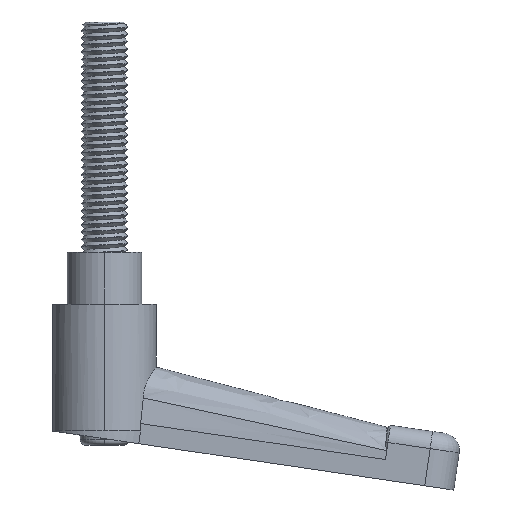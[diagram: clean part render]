
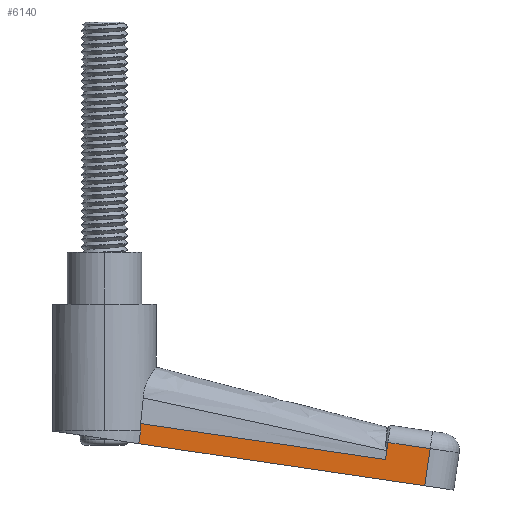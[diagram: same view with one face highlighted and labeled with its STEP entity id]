
A CAD part, left-side view. The second image highlights one B-rep face of the part: STEP entity #6140.
In plain terms, the highlighted planar face has unit normal (-1, -0.027, -0.004).
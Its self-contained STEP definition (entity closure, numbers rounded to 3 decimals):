
#24 = EDGE_LOOP ( 'NONE', ( #8490, #4016, #4014, #2385, #5252, #6838, #4878, #4247, #394 ) ) ;
#55 = VECTOR ( 'NONE', #6484, 1000. ) ;
#70 = VERTEX_POINT ( 'NONE', #7543 ) ;
#71 = DIRECTION ( 'NONE',  ( 1., 0.027, 0.004 ) ) ;
#280 = CARTESIAN_POINT ( 'NONE',  ( -5.294, -48.657, -35.944 ) ) ;
#283 = B_SPLINE_CURVE_WITH_KNOTS ( 'NONE', 3,
 ( #8276, #3263, #3327, #8343 ),
 .UNSPECIFIED., .F., .F.,
 ( 4, 4 ),
 ( 0., 0.471 ),
 .UNSPECIFIED. ) ;
#394 = ORIENTED_EDGE ( 'NONE', *, *, #4543, .F. ) ;
#437 = B_SPLINE_CURVE_WITH_KNOTS ( 'NONE', 3,
 ( #8195, #280, #5370, #1003 ),
 .UNSPECIFIED., .F., .F.,
 ( 4, 4 ),
 ( 0., 1. ),
 .UNSPECIFIED. ) ;
#576 = VECTOR ( 'NONE', #1375, 1000. ) ;
#906 = FACE_OUTER_BOUND ( 'NONE', #24, .T. ) ;
#930 = VERTEX_POINT ( 'NONE', #7800 ) ;
#1003 = CARTESIAN_POINT ( 'NONE',  ( -5.3, -48.42, -35.909 ) ) ;
#1363 = CARTESIAN_POINT ( 'NONE',  ( -6.071, -20.32, -31.775 ) ) ;
#1375 = DIRECTION ( 'NONE',  ( -0.027, 0.989, 0.145 ) ) ;
#1505 = PLANE ( 'NONE',  #7651 ) ;
#1710 = B_SPLINE_CURVE_WITH_KNOTS ( 'NONE', 3,
 ( #8512, #5681, #1363, #6446, #2100, #7147 ),
 .UNSPECIFIED., .F., .F.,
 ( 4, 2, 4 ),
 ( 0., 0.5, 1. ),
 .UNSPECIFIED. ) ;
#1866 =( BOUNDED_CURVE ( )  B_SPLINE_CURVE ( 3, ( #1969, #6321, #7738, #3432 ),
 .UNSPECIFIED., .F., .F. ) 
 B_SPLINE_CURVE_WITH_KNOTS ( ( 4, 4 ),
 ( 0.744, 0.745 ),
 .UNSPECIFIED. ) 
 CURVE ( )  GEOMETRIC_REPRESENTATION_ITEM ( )  RATIONAL_B_SPLINE_CURVE ( ( 1., 1., 1., 1. ) ) 
 REPRESENTATION_ITEM ( '' )  );
#1969 = CARTESIAN_POINT ( 'NONE',  ( -6.456, -6.27, -29.709 ) ) ;
#1993 = LINE ( 'NONE', #4271, #55 ) ;
#2040 = CARTESIAN_POINT ( 'NONE',  ( -5.29, -49.006, -34.391 ) ) ;
#2100 = CARTESIAN_POINT ( 'NONE',  ( -5.493, -41.395, -34.875 ) ) ;
#2109 = CARTESIAN_POINT ( 'NONE',  ( -5.29, -49.006, -34.391 ) ) ;
#2174 = CARTESIAN_POINT ( 'NONE',  ( -5.29, -48.929, -34.914 ) ) ;
#2200 = VERTEX_POINT ( 'NONE', #5728 ) ;
#2252 = EDGE_CURVE ( 'NONE', #930, #6529, #2804, .T. ) ;
#2258 = CARTESIAN_POINT ( 'NONE',  ( -6.456, -6.27, -29.709 ) ) ;
#2385 = ORIENTED_EDGE ( 'NONE', *, *, #8193, .T. ) ;
#2390 = VECTOR ( 'NONE', #8955, 1000. ) ;
#2409 = VECTOR ( 'NONE', #6076, 1000. ) ;
#2804 = B_SPLINE_CURVE_WITH_KNOTS ( 'NONE', 3,
 ( #4266, #4733, #2174, #2109 ),
 .UNSPECIFIED., .F., .F.,
 ( 4, 4 ),
 ( 0., 1. ),
 .UNSPECIFIED. ) ;
#2863 = EDGE_CURVE ( 'NONE', #7078, #70, #1866, .T. ) ;
#2923 = EDGE_CURVE ( 'NONE', #7078, #4560, #1710, .T. ) ;
#3263 = CARTESIAN_POINT ( 'NONE',  ( -5.29, -49.144, -33.459 ) ) ;
#3327 = CARTESIAN_POINT ( 'NONE',  ( -5.29, -49.075, -33.925 ) ) ;
#3432 = CARTESIAN_POINT ( 'NONE',  ( -6.451, -6.276, -31. ) ) ;
#3697 = EDGE_CURVE ( 'NONE', #8388, #6529, #283, .T. ) ;
#3734 = CARTESIAN_POINT ( 'NONE',  ( -5.089, -56.545, -34.072 ) ) ;
#4014 = ORIENTED_EDGE ( 'NONE', *, *, #2252, .F. ) ;
#4016 = ORIENTED_EDGE ( 'NONE', *, *, #3697, .T. ) ;
#4112 = LINE ( 'NONE', #5347, #2409 ) ;
#4247 = ORIENTED_EDGE ( 'NONE', *, *, #7222, .T. ) ;
#4266 = CARTESIAN_POINT ( 'NONE',  ( -5.29, -48.776, -35.961 ) ) ;
#4271 = CARTESIAN_POINT ( 'NONE',  ( -5.089, -56.108, -37.04 ) ) ;
#4433 = CARTESIAN_POINT ( 'NONE',  ( -5.089, -56.108, -37.04 ) ) ;
#4543 = EDGE_CURVE ( 'NONE', #4778, #2200, #1993, .T. ) ;
#4560 = VERTEX_POINT ( 'NONE', #7200 ) ;
#4615 = CARTESIAN_POINT ( 'NONE',  ( -6.451, -5.952, -33.199 ) ) ;
#4648 = LINE ( 'NONE', #6461, #576 ) ;
#4733 = CARTESIAN_POINT ( 'NONE',  ( -5.29, -48.852, -35.438 ) ) ;
#4778 = VERTEX_POINT ( 'NONE', #3734 ) ;
#4878 = ORIENTED_EDGE ( 'NONE', *, *, #7916, .T. ) ;
#5161 = DIRECTION ( 'NONE',  ( -0.027, 1., 0. ) ) ;
#5252 = ORIENTED_EDGE ( 'NONE', *, *, #2923, .F. ) ;
#5347 = CARTESIAN_POINT ( 'NONE',  ( -5.089, -55.599, -40.502 ) ) ;
#5370 = CARTESIAN_POINT ( 'NONE',  ( -5.297, -48.539, -35.926 ) ) ;
#5681 = CARTESIAN_POINT ( 'NONE',  ( -6.264, -13.295, -30.742 ) ) ;
#5728 = CARTESIAN_POINT ( 'NONE',  ( -5.089, -55.599, -40.502 ) ) ;
#5730 = VERTEX_POINT ( 'NONE', #4615 ) ;
#6076 = DIRECTION ( 'NONE',  ( 0.027, -0.989, -0.145 ) ) ;
#6140 = ADVANCED_FACE ( 'NONE', ( #906 ), #1505, .F. ) ;
#6321 = CARTESIAN_POINT ( 'NONE',  ( -6.455, -6.272, -30.139 ) ) ;
#6446 = CARTESIAN_POINT ( 'NONE',  ( -5.685, -34.37, -33.842 ) ) ;
#6461 = CARTESIAN_POINT ( 'NONE',  ( -5.089, -56.545, -34.072 ) ) ;
#6484 = DIRECTION ( 'NONE',  ( 0., 0.146, -0.989 ) ) ;
#6529 = VERTEX_POINT ( 'NONE', #2040 ) ;
#6838 = ORIENTED_EDGE ( 'NONE', *, *, #2863, .T. ) ;
#7026 = CARTESIAN_POINT ( 'NONE',  ( -5.29, -49.212, -32.993 ) ) ;
#7065 = CARTESIAN_POINT ( 'NONE',  ( -6.451, -9.553, -8.722 ) ) ;
#7078 = VERTEX_POINT ( 'NONE', #2258 ) ;
#7147 = CARTESIAN_POINT ( 'NONE',  ( -5.3, -48.42, -35.909 ) ) ;
#7200 = CARTESIAN_POINT ( 'NONE',  ( -5.3, -48.42, -35.909 ) ) ;
#7222 = EDGE_CURVE ( 'NONE', #5730, #2200, #4112, .T. ) ;
#7543 = CARTESIAN_POINT ( 'NONE',  ( -6.451, -6.276, -31. ) ) ;
#7651 = AXIS2_PLACEMENT_3D ( 'NONE', #4433, #71, #5161 ) ;
#7738 = CARTESIAN_POINT ( 'NONE',  ( -6.453, -6.274, -30.569 ) ) ;
#7800 = CARTESIAN_POINT ( 'NONE',  ( -5.29, -48.776, -35.961 ) ) ;
#7916 = EDGE_CURVE ( 'NONE', #70, #5730, #7922, .T. ) ;
#7922 = LINE ( 'NONE', #7065, #2390 ) ;
#8029 = EDGE_CURVE ( 'NONE', #4778, #8388, #4648, .T. ) ;
#8193 = EDGE_CURVE ( 'NONE', #930, #4560, #437, .T. ) ;
#8195 = CARTESIAN_POINT ( 'NONE',  ( -5.29, -48.776, -35.961 ) ) ;
#8276 = CARTESIAN_POINT ( 'NONE',  ( -5.29, -49.212, -32.993 ) ) ;
#8343 = CARTESIAN_POINT ( 'NONE',  ( -5.29, -49.006, -34.391 ) ) ;
#8388 = VERTEX_POINT ( 'NONE', #7026 ) ;
#8490 = ORIENTED_EDGE ( 'NONE', *, *, #8029, .T. ) ;
#8512 = CARTESIAN_POINT ( 'NONE',  ( -6.456, -6.27, -29.709 ) ) ;
#8955 = DIRECTION ( 'NONE',  ( 0., 0.146, -0.989 ) ) ;
